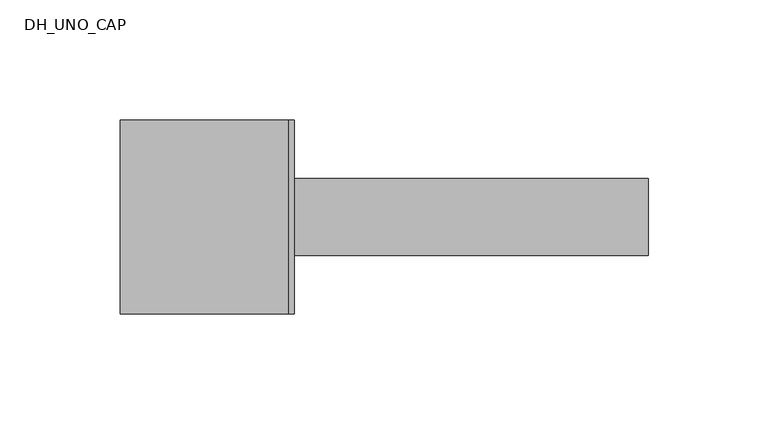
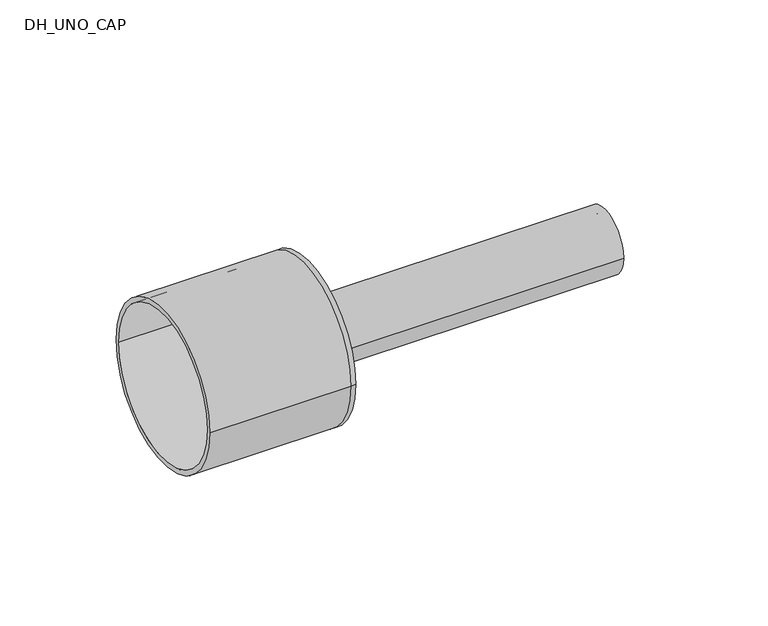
"""IFC4 building model written with IfcOpenShell, lengths in millimetres: pipe fitting geometry, DH_UNO_CAP : RAUTHERMEX UNO 7.4 DW - Solid Cap."""

from ifc_helpers import new_model, si_unit, point, frame, origin, origin_2d, place, context, project, spatial, polyline, circle_curve, trimmed, segment, composite_curve, outline, extrude, source, transform, mapped, element, save
from ifc_brep_helpers import plane_surface, cylinder_surface, revolved_surface, advanced_brep


def dh_uno_cap_751b7bd4(model_context):
    return source(origin(), model_context, "Body", "SolidModel", [
        extrude(outline(composite_curve([segment(trimmed(circle_curve(origin_2d(), 16.0), [point((-16.0, 0.0))], [point((16.0, 0.0))], False, "CARTESIAN"), True, "CONTINUOUS"), segment(trimmed(circle_curve(origin_2d(), 16.0), [point((16.0, 0.0))], [point((-16.0, 0.0))], False, "CARTESIAN"), True, "CONTINUOUS")], self_intersect=False), holes=[composite_curve([segment(trimmed(circle_curve(origin_2d(), 11.6), [point((-11.6, 0.0))], [point((11.6, 0.0))], True, "CARTESIAN"), True, "CONTINUOUS"), segment(trimmed(circle_curve(origin_2d(), 11.6), [point((11.6, 0.0))], [point((-11.6, 0.0))], True, "CARTESIAN"), True, "CONTINUOUS")], self_intersect=False)]), frame((0.0, 0.0, 0.0), z_axis=(1.0, 0.0, 0.0), x_axis=(0.0, 1.0, 0.0)), (0.0, 0.0, 1.0), 150.0),
        advanced_brep(
        [(-70.0, -40.5, 0.0), (-70.0, 40.5, 0.0), (-70.0, -38.0, 0.0), (-70.0, 38.0, 0.0), (0.0, -38.0, 0.0), (0.0, 38.0, 0.0), (0.0, -40.5, 0.0), (0.0, 40.5, 0.0), (0.0, 16.0, 0.0), (0.0, -16.0, 0.0), (2.5, -40.5, 0.0), (2.5, 40.5, 0.0), (2.5, -16.0, 0.0), (2.5, 16.0, 0.0)],
        [
            (0, 1, circle_curve(frame((-70.0, 0.0, 0.0), z_axis=(-1.0, 0.0, 0.0), x_axis=(0.0, 1.0, 0.0)), 40.5)),
            (1, 0, circle_curve(frame((-70.0, 0.0, 0.0), z_axis=(-1.0, 0.0, 0.0), x_axis=(0.0, 1.0, 0.0)), 40.5)),
            (2, 3, circle_curve(frame((-70.0, 0.0, 0.0), z_axis=(1.0, 0.0, 0.0), x_axis=(0.0, 1.0, 0.0)), 38.0)),
            (3, 2, circle_curve(frame((-70.0, 0.0, 0.0), z_axis=(1.0, 0.0, 0.0), x_axis=(0.0, 1.0, 0.0)), 38.0)),
            (2, 4),
            (4, 5, circle_curve(frame((0.0, 0.0, 0.0), z_axis=(1.0, 0.0, 0.0), x_axis=(0.0, 1.0, 0.0)), 38.0)),
            (5, 3),
            (5, 4, circle_curve(frame((0.0, 0.0, 0.0), z_axis=(1.0, 0.0, 0.0), x_axis=(0.0, 1.0, 0.0)), 38.0)),
            (0, 6),
            (6, 7, circle_curve(frame((0.0, 0.0, 0.0), z_axis=(-1.0, 0.0, 0.0), x_axis=(0.0, 1.0, 0.0)), 40.5)),
            (7, 1),
            (7, 6, circle_curve(frame((0.0, 0.0, 0.0), z_axis=(-1.0, 0.0, 0.0), x_axis=(0.0, 1.0, 0.0)), 40.5)),
            (8, 9, circle_curve(frame((0.0, 0.0, 0.0), z_axis=(1.0, 0.0, 0.0), x_axis=(0.0, 1.0, 0.0)), 16.0)),
            (9, 8, circle_curve(frame((0.0, 0.0, 0.0), z_axis=(1.0, 0.0, 0.0), x_axis=(0.0, 1.0, 0.0)), 16.0)),
            (10, 11, circle_curve(frame((2.5, 0.0, 0.0), z_axis=(1.0, 0.0, 0.0), x_axis=(0.0, 1.0, 0.0)), 40.5)),
            (11, 10, circle_curve(frame((2.5, 0.0, 0.0), z_axis=(1.0, 0.0, 0.0), x_axis=(0.0, 1.0, 0.0)), 40.5)),
            (12, 13, circle_curve(frame((2.5, 0.0, 0.0), z_axis=(-1.0, 0.0, 0.0), x_axis=(0.0, 1.0, 0.0)), 16.0)),
            (13, 12, circle_curve(frame((2.5, 0.0, 0.0), z_axis=(-1.0, 0.0, 0.0), x_axis=(0.0, 1.0, 0.0)), 16.0)),
            (11, 7),
            (6, 10),
            (8, 13),
            (12, 9),
        ],
        [
            plane_surface(frame((-70.0, 0.0, 0.0), z_axis=(-1.0, 0.0, 0.0), x_axis=(0.0, 0.0, 1.0))),
            revolved_surface(polyline([(0.0, 38.0, 0.0), (-70.0, 38.0, 0.0)]), (-70.0, 0.0, 0.0), (1.0, 0.0, 0.0)),
            cylinder_surface(frame((-70.0, 0.0, 0.0), z_axis=(-1.0, 0.0, 0.0), x_axis=(0.0, 1.0, 0.0)), 40.5),
            plane_surface(frame((0.0, 0.0, 0.0), z_axis=(-1.0, 0.0, 0.0), x_axis=(0.0, 0.0, 1.0))),
            plane_surface(frame((2.5, 0.0, 0.0), z_axis=(1.0, 0.0, 0.0), x_axis=(0.0, 0.0, 1.0))),
            cylinder_surface(frame((0.0, 0.0, 0.0), z_axis=(-1.0, 0.0, 0.0), x_axis=(0.0, 1.0, 0.0)), 40.5),
            revolved_surface(polyline([(0.0, 16.0, 0.0), (2.5, 16.0, 0.0)]), (0.0, 0.0, 0.0), (-1.0, 0.0, 0.0)),
        ],
        [
            (0, [[1, 2], [3, 4]]),
            (1, [[-3, 5, 6, 7]]),
            (1, [[-4, -7, 8, -5]]),
            (2, [[-1, 9, 10, 11]]),
            (2, [[-2, -11, 12, -9]]),
            (3, [[-6, -8], [13, 14]]),
            (4, [[15, 16], [17, 18]]),
            (5, [[-16, 19, -10, 20]]),
            (5, [[-15, -20, -12, -19]]),
            (6, [[21, -17, 22, -13]]),
            (6, [[-21, -14, -22, -18]]),
        ],
    ),
    ])


if __name__ == "__main__":
    model = new_model("IFC4")
    model_context = context("Model", 3, world=origin())
    ifc_project = project(units=[si_unit("LENGTHUNIT", "METRE", prefix="MILLI")], contexts=[model_context])
    site = spatial("IfcSite", under=ifc_project)
    building = spatial("IfcBuilding", under=site)
    placement = place(None, origin())
    dh_uno_cap_shape = dh_uno_cap_751b7bd4(model_context)
    element("IfcPipeFitting", 1, ObjectType="DH_UNO_CAP : RAUTHERMEX UNO 7.4 DW - Solid Cap", at=placement, inside=building, context=model_context, shape_type="MappedRepresentation", body=[
        mapped(dh_uno_cap_shape, transform((0.0, 0.0, 0.0), x_axis=(1.0, 0.0, 0.0), y_axis=(0.0, 1.0, 0.0), z_axis=(0.0, 0.0, 1.0))),
    ])
    save(model, "model.ifc")
